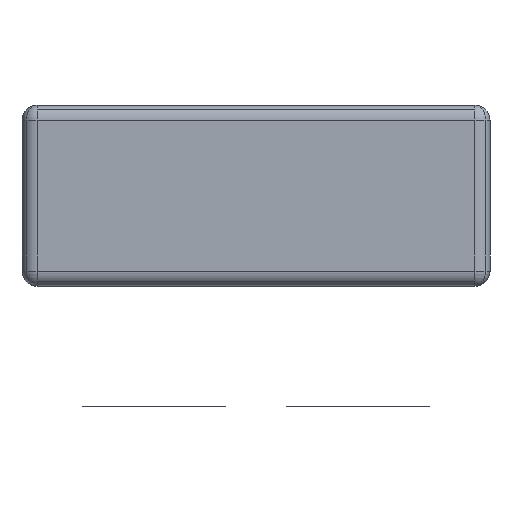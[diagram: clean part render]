
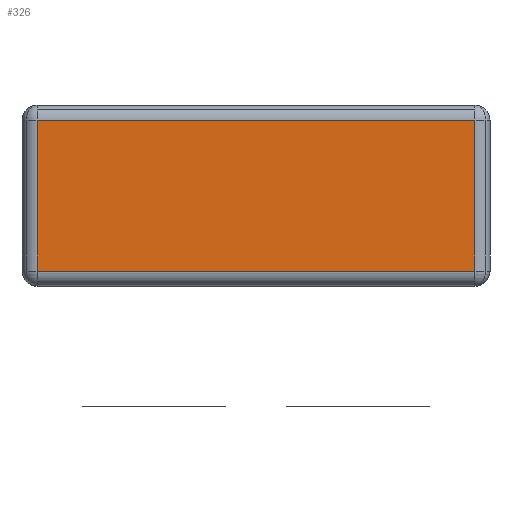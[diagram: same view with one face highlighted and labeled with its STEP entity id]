
A CAD part, front view. The second image highlights one B-rep face of the part: STEP entity #326.
In plain terms, the highlighted planar face has unit normal (0, -1, 0).
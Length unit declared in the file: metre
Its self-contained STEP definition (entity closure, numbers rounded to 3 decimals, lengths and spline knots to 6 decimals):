
#326=ADVANCED_FACE('0:402',(#839),#840,.T.);
#839=FACE_OUTER_BOUND('',#1416,.T.);
#840=PLANE('',#1417);
#1416=EDGE_LOOP('',(#3544,#3545,#3546,#3547));
#1417=AXIS2_PLACEMENT_3D('',#3548,#3549,#3550);
#3544=ORIENTED_EDGE('',*,*,#3883,.F.);
#3545=ORIENTED_EDGE('',*,*,#4369,.F.);
#3546=ORIENTED_EDGE('',*,*,#4370,.F.);
#3547=ORIENTED_EDGE('',*,*,#3777,.F.);
#3548=CARTESIAN_POINT('',(0.00775,0.0,0.0));
#3549=DIRECTION('',(0.0,-1.0,0.0));
#3550=DIRECTION('',(1.0,0.0,0.0));
#3777=EDGE_CURVE('4:33',#4485,#4487,#4488,.T.);
#3883=EDGE_CURVE('4:530',#4685,#4485,#4692,.T.);
#4369=EDGE_CURVE('4:24',#4464,#4685,#5441,.T.);
#4370=EDGE_CURVE('4:497',#4487,#4464,#5442,.T.);
#4464=VERTEX_POINT('',#5589);
#4485=VERTEX_POINT('',#5617);
#4487=VERTEX_POINT('',#5619);
#4488=LINE('',#5620,#5621);
#4685=VERTEX_POINT('',#5866);
#4692=LINE('',#5874,#5875);
#5441=LINE('',#6992,#6993);
#5442=LINE('',#6994,#6995);
#5589=CARTESIAN_POINT('',(0.015,0.0,0.0025));
#5617=CARTESIAN_POINT('',(0.0005,0.0,-0.0025));
#5619=CARTESIAN_POINT('',(0.0005,0.0,0.0025));
#5620=CARTESIAN_POINT('',(0.0005,0.0,0.0));
#5621=VECTOR('',#7196,1.0);
#5866=CARTESIAN_POINT('',(0.015,0.0,-0.0025));
#5874=CARTESIAN_POINT('',(0.003875,0.0,-0.0025));
#5875=VECTOR('',#7414,1.0);
#6992=CARTESIAN_POINT('',(0.015,0.0,0.0));
#6993=VECTOR('',#8222,1.0);
#6994=CARTESIAN_POINT('',(0.003875,0.0,0.0025));
#6995=VECTOR('',#8223,1.0);
#7196=DIRECTION('',(0.0,0.0,1.0));
#7414=DIRECTION('',(-1.0,0.0,0.0));
#8222=DIRECTION('',(0.0,-0.0,-1.0));
#8223=DIRECTION('',(1.0,-0.0,-0.0));
